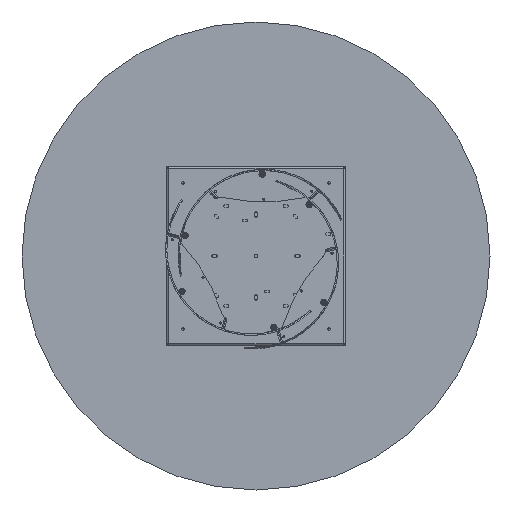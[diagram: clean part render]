
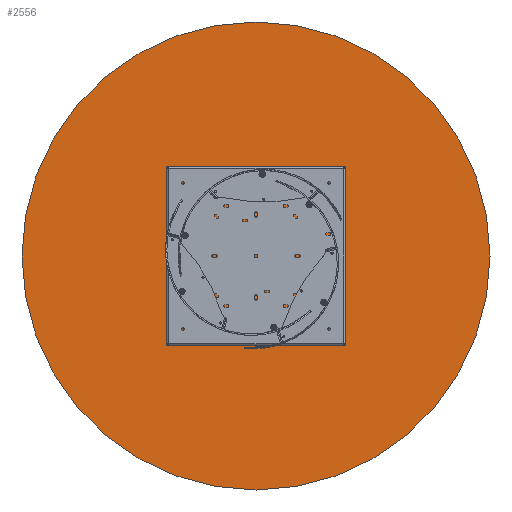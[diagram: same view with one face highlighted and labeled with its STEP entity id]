
A CAD part, front view. The second image highlights one B-rep face of the part: STEP entity #2556.
In plain terms, the highlighted planar face has unit normal (0, -1, 0).
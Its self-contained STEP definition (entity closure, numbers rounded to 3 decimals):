
#631 = DIRECTION ( 'NONE',  ( 0., 0., -1. ) ) ;
#822 = DIRECTION ( 'NONE',  ( 0., 0., -1. ) ) ;
#927 = CARTESIAN_POINT ( 'NONE',  ( 0., 0., 0. ) ) ;
#2137 = AXIS2_PLACEMENT_3D ( 'NONE', #11957, #18099, #19293 ) ;
#2325 = VERTEX_POINT ( 'NONE', #16832 ) ;
#2448 = AXIS2_PLACEMENT_3D ( 'NONE', #4797, #10781, #822 ) ;
#2556 = ADVANCED_FACE ( 'NONE', ( #6637 ), #6732, .T. ) ;
#3325 = ORIENTED_EDGE ( 'NONE', *, *, #3648, .T. ) ;
#3648 = EDGE_CURVE ( 'NONE', #11222, #2325, #15290, .T. ) ;
#4797 = CARTESIAN_POINT ( 'NONE',  ( 0., 0., 0. ) ) ;
#5532 = EDGE_LOOP ( 'NONE', ( #3325, #12371 ) ) ;
#6637 = FACE_OUTER_BOUND ( 'NONE', #5532, .T. ) ;
#6732 = PLANE ( 'NONE',  #6795 ) ;
#6795 = AXIS2_PLACEMENT_3D ( 'NONE', #927, #9767, #631 ) ;
#8110 = CIRCLE ( 'NONE', #2137, 900. ) ;
#9767 = DIRECTION ( 'NONE',  ( 0., -1., 0. ) ) ;
#10781 = DIRECTION ( 'NONE',  ( 0., -1., 0. ) ) ;
#11222 = VERTEX_POINT ( 'NONE', #11472 ) ;
#11342 = EDGE_CURVE ( 'NONE', #2325, #11222, #8110, .T. ) ;
#11472 = CARTESIAN_POINT ( 'NONE',  ( 0., 0., -900. ) ) ;
#11957 = CARTESIAN_POINT ( 'NONE',  ( 0., 0., 0. ) ) ;
#12371 = ORIENTED_EDGE ( 'NONE', *, *, #11342, .T. ) ;
#15290 = CIRCLE ( 'NONE', #2448, 900. ) ;
#16832 = CARTESIAN_POINT ( 'NONE',  ( 0., 0., 900. ) ) ;
#18099 = DIRECTION ( 'NONE',  ( 0., -1., 0. ) ) ;
#19293 = DIRECTION ( 'NONE',  ( 0., 0., -1. ) ) ;
